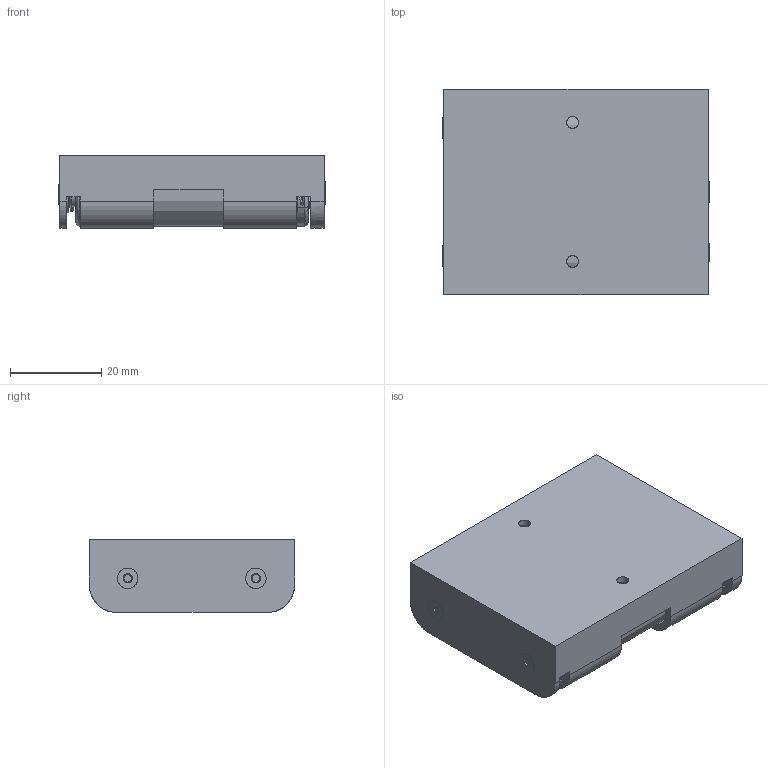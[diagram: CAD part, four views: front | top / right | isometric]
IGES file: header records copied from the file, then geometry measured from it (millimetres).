
Start section: SolidWorks IGES file using analytic representation for surfaces
Global section: file name: C:\Users\AndreBernot\Downloads\K-RACER-L_3D_SW\K-RACER-L_3D_SW\Coupleur 3 piles LR6.IGS; native system: SolidWorks 2015; preprocessor: SolidWorks 2015; author: AndreBernot; date: 170922.151118; units: millimetre
Bounding box: 58.7 x 45 x 16 mm (x, y, z)
Surface area: 19684.5 mm2 (no closed solid volume)
Topology: 0 solids, 0 shells, 508 faces, 7204 edges, 7204 vertices
Faces by surface type: bspline 383, revolution 125
